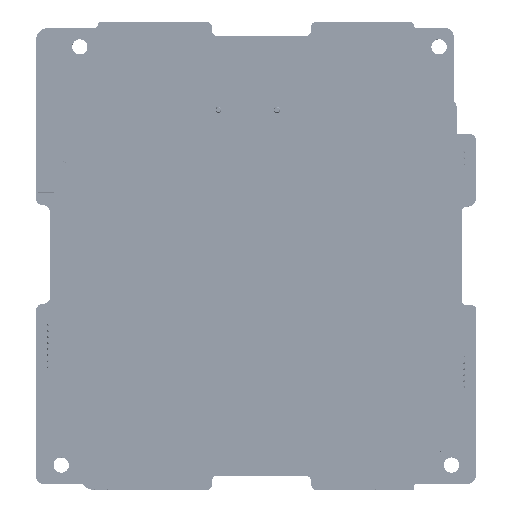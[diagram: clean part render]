
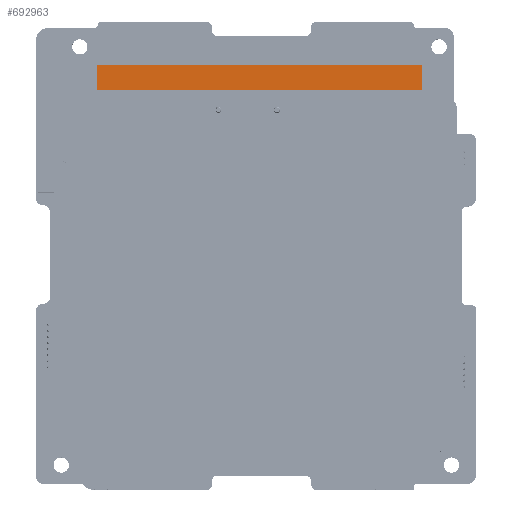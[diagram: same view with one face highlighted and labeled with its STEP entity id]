
A CAD part, top view. The second image highlights one B-rep face of the part: STEP entity #692963.
In plain terms, the highlighted planar face has unit normal (0, 0, 1).
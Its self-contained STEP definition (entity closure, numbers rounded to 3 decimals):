
#18937 = EDGE_CURVE ( 'NONE', #566260, #519726, #745725, .T. ) ;
#31359 = DIRECTION ( 'NONE',  ( 1., 0., 0. ) ) ;
#61113 = CARTESIAN_POINT ( 'NONE',  ( 6.449, 90.674, 102.071 ) ) ;
#78665 = ORIENTED_EDGE ( 'NONE', *, *, #18937, .T. ) ;
#168309 = VECTOR ( 'NONE', #653738, 1000. ) ;
#170368 = CARTESIAN_POINT ( 'NONE',  ( 72.997, 95.754, 102.071 ) ) ;
#288726 = CARTESIAN_POINT ( 'NONE',  ( 6.449, 0., 102.071 ) ) ;
#338935 = LINE ( 'NONE', #835062, #487133 ) ;
#356237 = CARTESIAN_POINT ( 'NONE',  ( 72.997, 90.674, 102.071 ) ) ;
#375129 = FACE_OUTER_BOUND ( 'NONE', #416911, .T. ) ;
#415580 = ORIENTED_EDGE ( 'NONE', *, *, #622334, .T. ) ;
#416182 = DIRECTION ( 'NONE',  ( 0., -1., 0. ) ) ;
#416911 = EDGE_LOOP ( 'NONE', ( #78665, #647037, #812766, #415580 ) ) ;
#426398 = VERTEX_POINT ( 'NONE', #848563 ) ;
#437729 = VECTOR ( 'NONE', #848614, 1000. ) ;
#480025 = EDGE_CURVE ( 'NONE', #426398, #872995, #572006, .T. ) ;
#485743 = AXIS2_PLACEMENT_3D ( 'NONE', #170368, #857826, #657296 ) ;
#487133 = VECTOR ( 'NONE', #416182, 1000. ) ;
#501813 = EDGE_CURVE ( 'NONE', #426398, #519726, #338935, .T. ) ;
#519726 = VERTEX_POINT ( 'NONE', #356237 ) ;
#566260 = VERTEX_POINT ( 'NONE', #61113 ) ;
#567556 = CARTESIAN_POINT ( 'NONE',  ( 72.997, 95.754, 102.071 ) ) ;
#572006 = LINE ( 'NONE', #567556, #168309 ) ;
#622334 = EDGE_CURVE ( 'NONE', #872995, #566260, #771318, .T. ) ;
#647037 = ORIENTED_EDGE ( 'NONE', *, *, #501813, .F. ) ;
#653738 = DIRECTION ( 'NONE',  ( -1., 0., 0. ) ) ;
#657296 = DIRECTION ( 'NONE',  ( -1., 0., 0. ) ) ;
#663924 = CARTESIAN_POINT ( 'NONE',  ( 72.997, 90.674, 102.071 ) ) ;
#692963 = ADVANCED_FACE ( 'NONE', ( #375129 ), #721166, .F. ) ;
#716749 = VECTOR ( 'NONE', #31359, 1000. ) ;
#721166 = PLANE ( 'NONE',  #485743 ) ;
#745725 = LINE ( 'NONE', #663924, #716749 ) ;
#771318 = LINE ( 'NONE', #288726, #437729 ) ;
#812766 = ORIENTED_EDGE ( 'NONE', *, *, #480025, .T. ) ;
#834962 = CARTESIAN_POINT ( 'NONE',  ( 6.449, 95.754, 102.071 ) ) ;
#835062 = CARTESIAN_POINT ( 'NONE',  ( 72.997, 0., 102.071 ) ) ;
#848563 = CARTESIAN_POINT ( 'NONE',  ( 72.997, 95.754, 102.071 ) ) ;
#848614 = DIRECTION ( 'NONE',  ( 0., -1., 0. ) ) ;
#857826 = DIRECTION ( 'NONE',  ( 0., 0., -1. ) ) ;
#872995 = VERTEX_POINT ( 'NONE', #834962 ) ;
